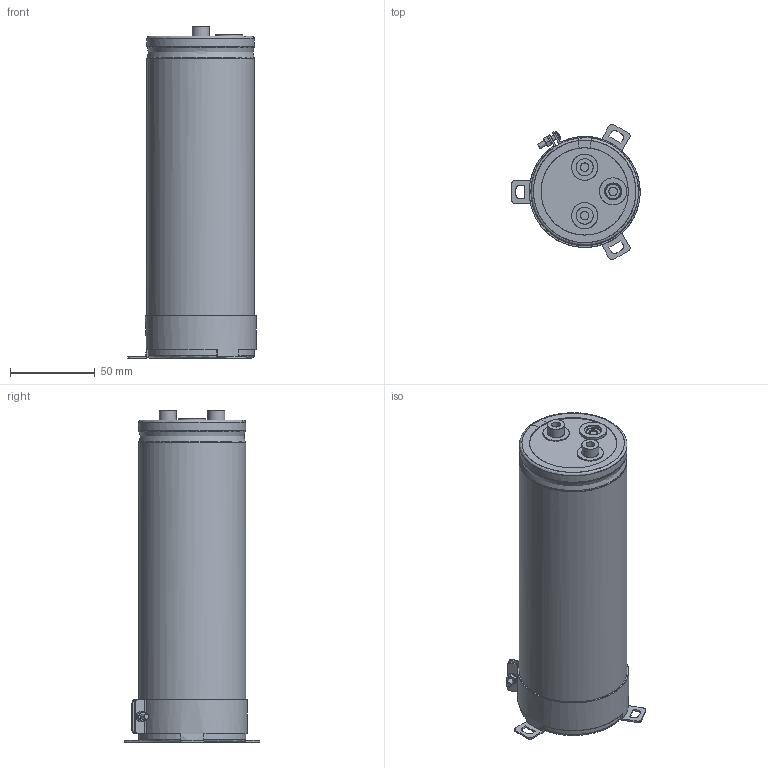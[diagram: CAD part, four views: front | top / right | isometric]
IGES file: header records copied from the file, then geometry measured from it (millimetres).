
Start section: JAMA-IS VERSION  1.0
Bounding box: 75.75 x 80.01 x 196 mm (x, y, z)
Surface area: 134488.6 mm2 (no closed solid volume)
Topology: 0 solids, 0 shells, 259 faces, 4436 edges, 4409 vertices
Faces by surface type: bspline 259
